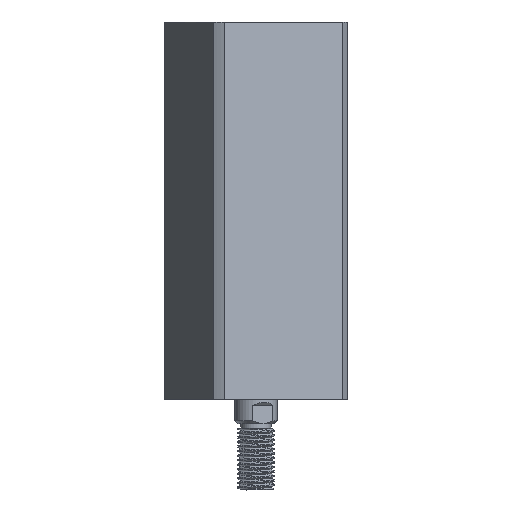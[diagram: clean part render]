
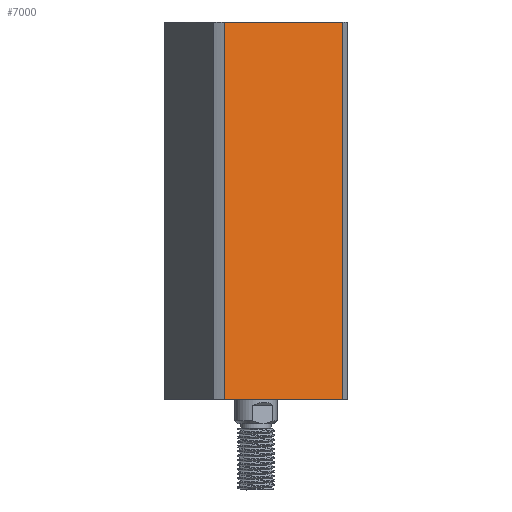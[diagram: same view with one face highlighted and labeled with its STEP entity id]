
A CAD part, front view. The second image highlights one B-rep face of the part: STEP entity #7000.
In plain terms, the highlighted planar face has unit normal (0.383, -0.924, 0) as drawn and (1, 0, 0) by its records, which use the part's own axes.
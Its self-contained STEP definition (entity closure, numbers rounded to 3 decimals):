
#9 = CARTESIAN_POINT ( 'NONE',  ( 24., -21.166, 125. ) ) ;
#169 = VECTOR ( 'NONE', #2147, 1000. ) ;
#240 = VERTEX_POINT ( 'NONE', #5393 ) ;
#658 = VECTOR ( 'NONE', #5221, 1000. ) ;
#935 = PLANE ( 'NONE',  #5120 ) ;
#1193 = LINE ( 'NONE', #9788, #7566 ) ;
#1211 = DIRECTION ( 'NONE',  ( 0., 1., 0. ) ) ;
#1989 = CARTESIAN_POINT ( 'NONE',  ( 24., 24., 125. ) ) ;
#2147 = DIRECTION ( 'NONE',  ( 0., 0., 1. ) ) ;
#2365 = LINE ( 'NONE', #3791, #169 ) ;
#2418 = EDGE_CURVE ( 'NONE', #5558, #240, #7562, .T. ) ;
#3429 = DIRECTION ( 'NONE',  ( -1., 0., 0. ) ) ;
#3791 = CARTESIAN_POINT ( 'NONE',  ( 24., -21.166, -175. ) ) ;
#5120 = AXIS2_PLACEMENT_3D ( 'NONE', #9231, #3429, #9274 ) ;
#5122 = VERTEX_POINT ( 'NONE', #5243 ) ;
#5221 = DIRECTION ( 'NONE',  ( 0., 1., 0. ) ) ;
#5243 = CARTESIAN_POINT ( 'NONE',  ( 24., -21.166, 0. ) ) ;
#5251 = EDGE_LOOP ( 'NONE', ( #5826, #8320, #10820, #8841 ) ) ;
#5340 = CARTESIAN_POINT ( 'NONE',  ( 24., 24., 0. ) ) ;
#5393 = CARTESIAN_POINT ( 'NONE',  ( 24., 21.166, 125. ) ) ;
#5558 = VERTEX_POINT ( 'NONE', #9 ) ;
#5826 = ORIENTED_EDGE ( 'NONE', *, *, #7256, .F. ) ;
#6496 = DIRECTION ( 'NONE',  ( 0., 0., -1. ) ) ;
#6977 = CARTESIAN_POINT ( 'NONE',  ( 24., 21.166, 0. ) ) ;
#7000 = ADVANCED_FACE ( 'NONE', ( #7596 ), #935, .F. ) ;
#7256 = EDGE_CURVE ( 'NONE', #5122, #5558, #2365, .T. ) ;
#7562 = LINE ( 'NONE', #1989, #658 ) ;
#7566 = VECTOR ( 'NONE', #6496, 1000. ) ;
#7596 = FACE_OUTER_BOUND ( 'NONE', #5251, .T. ) ;
#7675 = VERTEX_POINT ( 'NONE', #6977 ) ;
#8089 = VECTOR ( 'NONE', #1211, 1000. ) ;
#8320 = ORIENTED_EDGE ( 'NONE', *, *, #9781, .T. ) ;
#8841 = ORIENTED_EDGE ( 'NONE', *, *, #2418, .F. ) ;
#8988 = EDGE_CURVE ( 'NONE', #240, #7675, #1193, .T. ) ;
#9231 = CARTESIAN_POINT ( 'NONE',  ( 24., 24., 125. ) ) ;
#9274 = DIRECTION ( 'NONE',  ( 0., -1., 0. ) ) ;
#9781 = EDGE_CURVE ( 'NONE', #5122, #7675, #10317, .T. ) ;
#9788 = CARTESIAN_POINT ( 'NONE',  ( 24., 21.166, -175. ) ) ;
#10317 = LINE ( 'NONE', #5340, #8089 ) ;
#10820 = ORIENTED_EDGE ( 'NONE', *, *, #8988, .F. ) ;
